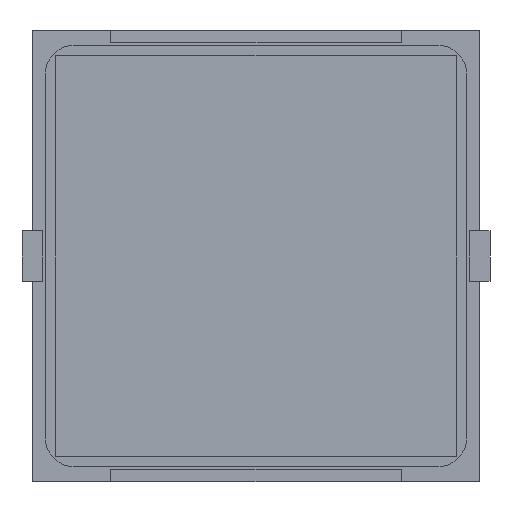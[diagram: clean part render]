
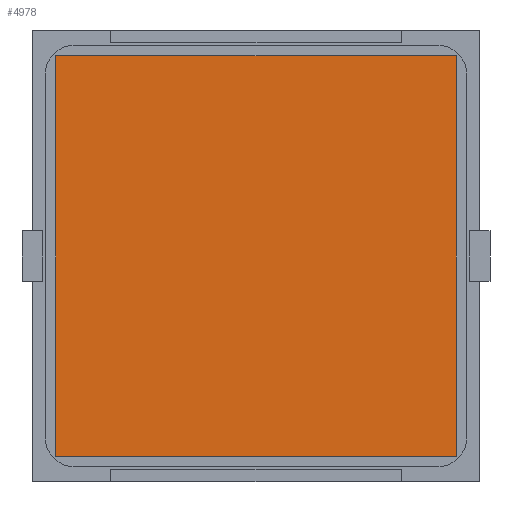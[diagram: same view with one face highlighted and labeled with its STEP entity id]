
A CAD part, front view. The second image highlights one B-rep face of the part: STEP entity #4978.
In plain terms, the highlighted planar face has unit normal (0, -1, 0).
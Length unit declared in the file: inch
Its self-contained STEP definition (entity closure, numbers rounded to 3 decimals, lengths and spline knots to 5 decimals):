
#690 = CARTESIAN_POINT ( 'NONE',  ( -0.7874, -0.005, -0.7874 ) ) ;
#1117 = VERTEX_POINT ( 'NONE', #690 ) ;
#1587 = AXIS2_PLACEMENT_3D ( 'NONE', #14484, #11162, #6453 ) ;
#2170 = EDGE_CURVE ( 'NONE', #1117, #8547, #17305, .T. ) ;
#2358 = VECTOR ( 'NONE', #7958, 39.37008 ) ;
#2527 = CARTESIAN_POINT ( 'NONE',  ( 0.7874, -0.005, 0.7874 ) ) ;
#3702 = VECTOR ( 'NONE', #12056, 39.37008 ) ;
#4978 = ADVANCED_FACE ( 'NONE', ( #5537 ), #15736, .F. ) ;
#5537 = FACE_OUTER_BOUND ( 'NONE', #17345, .T. ) ;
#6453 = DIRECTION ( 'NONE',  ( 0., 0., 1. ) ) ;
#6714 = ORIENTED_EDGE ( 'NONE', *, *, #11160, .F. ) ;
#7000 = EDGE_CURVE ( 'NONE', #7591, #20106, #13881, .T. ) ;
#7486 = EDGE_CURVE ( 'NONE', #8547, #7591, #17400, .T. ) ;
#7561 = DIRECTION ( 'NONE',  ( 0., 0., 1. ) ) ;
#7591 = VERTEX_POINT ( 'NONE', #2527 ) ;
#7958 = DIRECTION ( 'NONE',  ( -1., 0., 0. ) ) ;
#8272 = ORIENTED_EDGE ( 'NONE', *, *, #7486, .F. ) ;
#8472 = CARTESIAN_POINT ( 'NONE',  ( 0.7874, -0.005, -0.7874 ) ) ;
#8547 = VERTEX_POINT ( 'NONE', #20771 ) ;
#9088 = CARTESIAN_POINT ( 'NONE',  ( -0.7874, -0.005, -0.7874 ) ) ;
#11160 = EDGE_CURVE ( 'NONE', #20106, #1117, #21729, .T. ) ;
#11162 = DIRECTION ( 'NONE',  ( 0., 1., 0. ) ) ;
#12056 = DIRECTION ( 'NONE',  ( 1., 0., 0. ) ) ;
#13178 = VECTOR ( 'NONE', #7561, 39.37008 ) ;
#13881 = LINE ( 'NONE', #20360, #15778 ) ;
#14484 = CARTESIAN_POINT ( 'NONE',  ( -0.7874, -0.005, 0.7874 ) ) ;
#15587 = DIRECTION ( 'NONE',  ( 0., 0., -1. ) ) ;
#15736 = PLANE ( 'NONE',  #1587 ) ;
#15778 = VECTOR ( 'NONE', #15587, 39.37008 ) ;
#17305 = LINE ( 'NONE', #9088, #13178 ) ;
#17345 = EDGE_LOOP ( 'NONE', ( #20750, #6714, #17591, #8272 ) ) ;
#17400 = LINE ( 'NONE', #19192, #3702 ) ;
#17591 = ORIENTED_EDGE ( 'NONE', *, *, #7000, .F. ) ;
#19192 = CARTESIAN_POINT ( 'NONE',  ( -0.7874, -0.005, 0.7874 ) ) ;
#20106 = VERTEX_POINT ( 'NONE', #8472 ) ;
#20360 = CARTESIAN_POINT ( 'NONE',  ( 0.7874, -0.005, -0.7874 ) ) ;
#20750 = ORIENTED_EDGE ( 'NONE', *, *, #2170, .F. ) ;
#20771 = CARTESIAN_POINT ( 'NONE',  ( -0.7874, -0.005, 0.7874 ) ) ;
#21508 = CARTESIAN_POINT ( 'NONE',  ( -0.7874, -0.005, -0.7874 ) ) ;
#21729 = LINE ( 'NONE', #21508, #2358 ) ;
